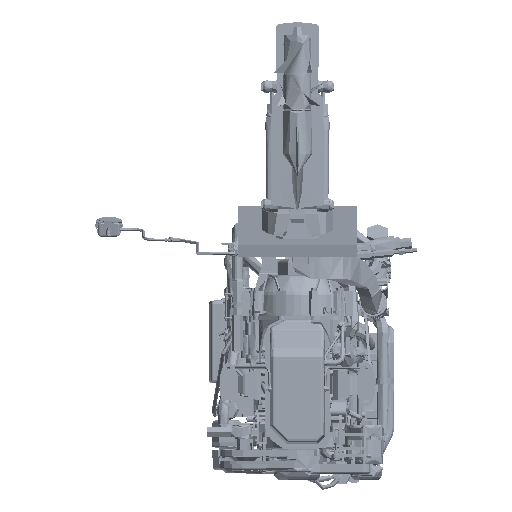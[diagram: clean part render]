
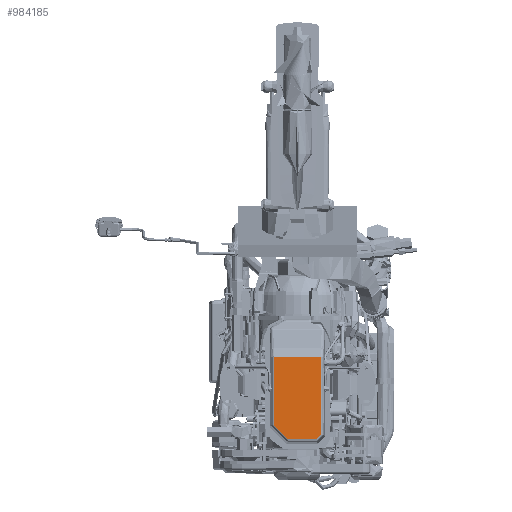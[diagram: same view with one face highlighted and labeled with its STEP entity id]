
A CAD part, front view. The second image highlights one B-rep face of the part: STEP entity #984185.
In plain terms, the highlighted planar face has unit normal (0, -1, 0).
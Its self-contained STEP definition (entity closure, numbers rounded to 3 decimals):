
#979337=CARTESIAN_POINT('',(97.264,-240.,79.766));
#979351=DIRECTION('',(1.,0.,0.));
#979352=VECTOR('',#979351,194.528);
#979353=CARTESIAN_POINT('',(-97.264,-240.,79.766));
#979354=LINE('',#979353,#979352);
#979467=DIRECTION('',(0.,0.,1.));
#979468=VECTOR('',#979467,287.254);
#979469=CARTESIAN_POINT('',(-97.264,-240.,
-207.489));
#979470=LINE('',#979469,#979468);
#979512=DIRECTION('',(-1.,0.,
0.));
#979513=VECTOR('',#979512,120.578);
#979514=CARTESIAN_POINT('',(80.275,-240.,
-264.455));
#979515=LINE('',#979514,#979513);
#979516=CARTESIAN_POINT('',(80.275,-240.,
-264.455));
#979517=CARTESIAN_POINT('',(80.71,-240.,
-264.455));
#979518=CARTESIAN_POINT('',(81.753,-240.,
-264.415));
#979519=CARTESIAN_POINT('',(83.392,-240.,
-264.2));
#979520=CARTESIAN_POINT('',(85.266,-240.,
-263.746));
#979521=CARTESIAN_POINT('',(87.16,-240.,
-263.046));
#979522=CARTESIAN_POINT('',(89.024,-240.,
-262.081));
#979523=CARTESIAN_POINT('',(90.755,-240.,
-260.895));
#979524=CARTESIAN_POINT('',(93.272,-240.,
-258.667));
#979525=CARTESIAN_POINT('',(95.117,-240.,
-256.039));
#979526=CARTESIAN_POINT('',(96.263,-240.,
-253.28));
#979527=CARTESIAN_POINT('',(96.724,-240.,
-251.808));
#979528=CARTESIAN_POINT('',(97.049,-240.,
-250.302));
#979529=CARTESIAN_POINT('',(97.227,-240.,
-248.849));
#979530=CARTESIAN_POINT('',(97.264,-240.,-247.902));
#979531=CARTESIAN_POINT('',(97.264,-240.,
-247.467));
#979533=CARTESIAN_POINT('',(-97.264,-240.,
-207.489));
#979534=CARTESIAN_POINT('',(-97.264,-240.,
-208.029));
#979535=CARTESIAN_POINT('',(-97.243,-240.,
-209.551));
#979536=CARTESIAN_POINT('',(-97.107,-240.,
-212.046));
#979537=CARTESIAN_POINT('',(-96.694,-240.,
-215.937));
#979538=CARTESIAN_POINT('',(-95.805,-240.,
-220.746));
#979539=CARTESIAN_POINT('',(-94.151,-240.,
-226.38));
#979540=CARTESIAN_POINT('',(-90.178,-240.,
-236.084));
#979541=CARTESIAN_POINT('',(-83.846,-240.,
-245.089));
#979542=CARTESIAN_POINT('',(-75.4,-240.,
-252.549));
#979543=CARTESIAN_POINT('',(-69.591,-240.,
-256.522));
#979544=CARTESIAN_POINT('',(-63.339,-240.,
-259.752));
#979545=CARTESIAN_POINT('',(-56.56,-240.,
-262.251));
#979546=CARTESIAN_POINT('',(-50.593,-240.,
-263.616));
#979547=CARTESIAN_POINT('',(-45.651,-240.,
-264.245));
#979548=CARTESIAN_POINT('',(-42.628,-240.,
-264.43));
#979549=CARTESIAN_POINT('',(-40.842,-240.,
-264.455));
#979550=CARTESIAN_POINT('',(-40.303,-240.,
-264.455));
#979686=DIRECTION('',(0.,0.,-1.));
#979687=VECTOR('',#979686,327.232);
#979688=CARTESIAN_POINT('',(97.264,-240.,79.766));
#979689=LINE('',#979688,#979687);
#982522=VERTEX_POINT('',#979337);
#982523=CARTESIAN_POINT('',(-97.264,-240.,79.766));
#982524=VERTEX_POINT('',#982523);
#982525=CARTESIAN_POINT('',(80.275,-240.,
-264.455));
#982526=CARTESIAN_POINT('',(-40.303,-240.,
-264.455));
#982527=VERTEX_POINT('',#982525);
#982528=VERTEX_POINT('',#982526);
#982529=VERTEX_POINT('',#979533);
#982530=CARTESIAN_POINT('',(97.264,-240.,
-247.467));
#982531=VERTEX_POINT('',#982530);
#984170=CARTESIAN_POINT('',(-114.821,-240.,9.77));
#984171=DIRECTION('',(0.,-1.,0.));
#984172=DIRECTION('',(-1.,0.,0.));
#984173=AXIS2_PLACEMENT_3D('',#984170,#984171,#984172);
#984174=PLANE('',#984173);
#984176=ORIENTED_EDGE('',*,*,#984175,.F.);
#984177=ORIENTED_EDGE('',*,*,#984163,.T.);
#984178=ORIENTED_EDGE('',*,*,#984120,.F.);
#984179=ORIENTED_EDGE('',*,*,#983895,.T.);
#984180=ORIENTED_EDGE('',*,*,#983428,.T.);
#984182=ORIENTED_EDGE('',*,*,#984181,.T.);
#984183=EDGE_LOOP('',(#984176,#984177,#984178,#984179,#984180,#984182));
#984184=FACE_OUTER_BOUND('',#984183,.F.);
#984185=ADVANCED_FACE('',(#984184),#984174,.T.);
#979532=B_SPLINE_CURVE_WITH_KNOTS('',3,(#979516,#979517,#979518,#979519,#979520,
#979521,#979522,#979523,#979524,#979525,#979526,#979527,#979528,#979529,#979530,
#979531),.UNSPECIFIED.,.F.,.F.,(4,1,1,1,1,1,1,1,1,1,1,1,1,4),(0.,
0.049,0.118,0.186,0.265,
0.344,0.422,0.501,0.72,
0.777,0.835,0.893,0.951,1.),
.UNSPECIFIED.);
#979551=B_SPLINE_CURVE_WITH_KNOTS('',3,(#979533,#979534,#979535,#979536,#979537,
#979538,#979539,#979540,#979541,#979542,#979543,#979544,#979545,#979546,#979547,
#979548,#979549,#979550),.UNSPECIFIED.,.F.,.F.,(4,1,1,1,1,1,1,1,1,1,1,1,1,1,1,
4),(0.,0.018,0.051,0.084,
0.15,0.215,0.281,0.5,
0.578,0.657,0.736,0.815,
0.898,0.94,0.982,1.),.UNSPECIFIED.);
#983428=EDGE_CURVE('',#982524,#982522,#979354,.T.);
#983895=EDGE_CURVE('',#982529,#982524,#979470,.T.);
#984120=EDGE_CURVE('',#982529,#982528,#979551,.T.);
#984163=EDGE_CURVE('',#982527,#982528,#979515,.T.);
#984175=EDGE_CURVE('',#982527,#982531,#979532,.T.);
#984181=EDGE_CURVE('',#982522,#982531,#979689,.T.);
